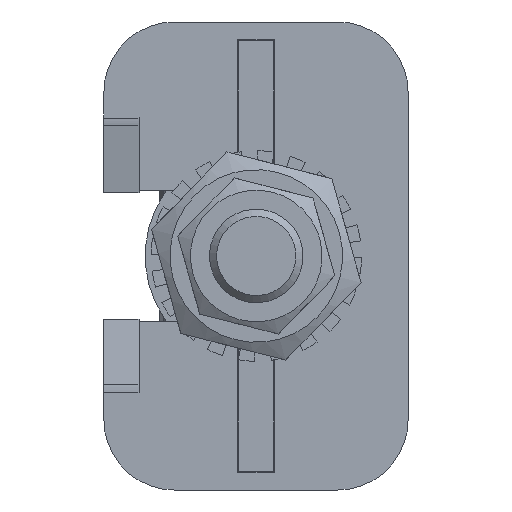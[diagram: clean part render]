
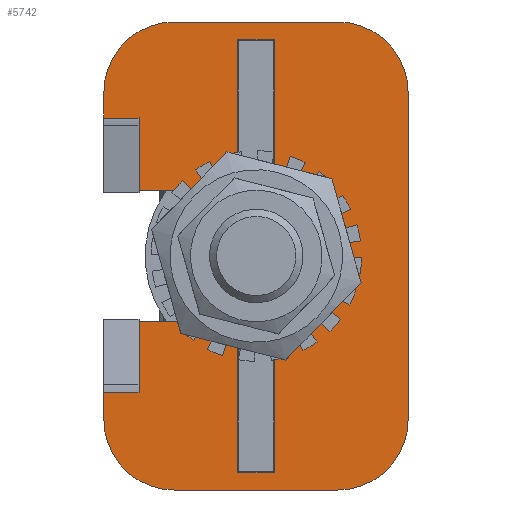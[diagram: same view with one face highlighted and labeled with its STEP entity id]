
A CAD part, left-side view. The second image highlights one B-rep face of the part: STEP entity #5742.
In plain terms, the highlighted planar face has unit normal (-1, 0, 0) as drawn and (0, 0, -1) by its records, which use the part's own axes.
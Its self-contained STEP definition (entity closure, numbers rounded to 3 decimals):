
#174=FACE_BOUND('',#1111,.T.);
#175=FACE_BOUND('',#1112,.T.);
#265=CIRCLE('',#6135,11.25);
#266=CIRCLE('',#6136,12.);
#267=CIRCLE('',#6137,12.);
#268=CIRCLE('',#6138,12.);
#269=CIRCLE('',#6139,12.);
#759=FACE_OUTER_BOUND('',#1110,.T.);
#1110=EDGE_LOOP('',(#4128,#4129,#4130,#4131,#4132,#4133,#4134,#4135,#4136,
#4137,#4138,#4139,#4140,#4141,#4142,#4143,#4144,#4145,#4146,#4147));
#1111=EDGE_LOOP('',(#4148,#4149,#4150,#4151));
#1112=EDGE_LOOP('',(#4152,#4153,#4154,#4155));
#1558=LINE('',#8747,#2044);
#1569=LINE('',#8770,#2055);
#1570=LINE('',#8773,#2056);
#1575=LINE('',#8782,#2061);
#1595=LINE('',#8833,#2081);
#1597=LINE('',#8837,#2083);
#1598=LINE('',#8841,#2084);
#1599=LINE('',#8843,#2085);
#1600=LINE('',#8845,#2086);
#1601=LINE('',#8847,#2087);
#1602=LINE('',#8849,#2088);
#1603=LINE('',#8851,#2089);
#1604=LINE('',#8855,#2090);
#1605=LINE('',#8859,#2091);
#1606=LINE('',#8863,#2092);
#1607=LINE('',#8867,#2093);
#1608=LINE('',#8869,#2094);
#1609=LINE('',#8871,#2095);
#1610=LINE('',#8872,#2096);
#1611=LINE('',#8875,#2097);
#1612=LINE('',#8877,#2098);
#1613=LINE('',#8879,#2099);
#1614=LINE('',#8880,#2100);
#2044=VECTOR('',#6946,6.);
#2055=VECTOR('',#6969,0.1);
#2056=VECTOR('',#6972,0.1);
#2061=VECTOR('',#6979,12.418);
#2081=VECTOR('',#7013,4.432);
#2083=VECTOR('',#7017,19.95);
#2084=VECTOR('',#7020,19.95);
#2085=VECTOR('',#7021,12.1);
#2086=VECTOR('',#7022,0.1);
#2087=VECTOR('',#7023,0.1);
#2088=VECTOR('',#7024,6.);
#2089=VECTOR('',#7025,4.75);
#2090=VECTOR('',#7028,28.);
#2091=VECTOR('',#7031,56.);
#2092=VECTOR('',#7034,28.);
#2093=VECTOR('',#7037,6.2);
#2094=VECTOR('',#7038,21.2);
#2095=VECTOR('',#7039,6.2);
#2096=VECTOR('',#7040,21.2);
#2097=VECTOR('',#7041,6.2);
#2098=VECTOR('',#7042,21.2);
#2099=VECTOR('',#7043,6.2);
#2100=VECTOR('',#7044,21.2);
#2506=VERTEX_POINT('',#8726);
#2509=VERTEX_POINT('',#8734);
#2518=VERTEX_POINT('',#8768);
#2519=VERTEX_POINT('',#8772);
#2522=VERTEX_POINT('',#8780);
#2546=VERTEX_POINT('',#8832);
#2547=VERTEX_POINT('',#8836);
#2548=VERTEX_POINT('',#8838);
#2549=VERTEX_POINT('',#8840);
#2550=VERTEX_POINT('',#8842);
#2551=VERTEX_POINT('',#8844);
#2552=VERTEX_POINT('',#8846);
#2553=VERTEX_POINT('',#8848);
#2554=VERTEX_POINT('',#8850);
#2555=VERTEX_POINT('',#8852);
#2556=VERTEX_POINT('',#8854);
#2557=VERTEX_POINT('',#8856);
#2558=VERTEX_POINT('',#8858);
#2559=VERTEX_POINT('',#8860);
#2560=VERTEX_POINT('',#8862);
#2561=VERTEX_POINT('',#8865);
#2562=VERTEX_POINT('',#8866);
#2563=VERTEX_POINT('',#8868);
#2564=VERTEX_POINT('',#8870);
#2565=VERTEX_POINT('',#8873);
#2566=VERTEX_POINT('',#8874);
#2567=VERTEX_POINT('',#8876);
#2568=VERTEX_POINT('',#8878);
#3118=EDGE_CURVE('',#2509,#2506,#1558,.T.);
#3129=EDGE_CURVE('',#2506,#2518,#1569,.T.);
#3130=EDGE_CURVE('',#2518,#2519,#1570,.T.);
#3135=EDGE_CURVE('',#2522,#2519,#1575,.T.);
#3160=EDGE_CURVE('',#2509,#2546,#1595,.T.);
#3162=EDGE_CURVE('',#2547,#2522,#1597,.T.);
#3163=EDGE_CURVE('',#2548,#2547,#265,.T.);
#3164=EDGE_CURVE('',#2549,#2548,#1598,.T.);
#3165=EDGE_CURVE('',#2550,#2549,#1599,.T.);
#3166=EDGE_CURVE('',#2550,#2551,#1600,.T.);
#3167=EDGE_CURVE('',#2551,#2552,#1601,.T.);
#3168=EDGE_CURVE('',#2552,#2553,#1602,.T.);
#3169=EDGE_CURVE('',#2554,#2553,#1603,.T.);
#3170=EDGE_CURVE('',#2555,#2554,#266,.T.);
#3171=EDGE_CURVE('',#2556,#2555,#1604,.T.);
#3172=EDGE_CURVE('',#2557,#2556,#267,.T.);
#3173=EDGE_CURVE('',#2558,#2557,#1605,.T.);
#3174=EDGE_CURVE('',#2559,#2558,#268,.T.);
#3175=EDGE_CURVE('',#2560,#2559,#1606,.T.);
#3176=EDGE_CURVE('',#2546,#2560,#269,.T.);
#3177=EDGE_CURVE('',#2561,#2562,#1607,.T.);
#3178=EDGE_CURVE('',#2562,#2563,#1608,.T.);
#3179=EDGE_CURVE('',#2563,#2564,#1609,.T.);
#3180=EDGE_CURVE('',#2564,#2561,#1610,.T.);
#3181=EDGE_CURVE('',#2565,#2566,#1611,.T.);
#3182=EDGE_CURVE('',#2566,#2567,#1612,.T.);
#3183=EDGE_CURVE('',#2567,#2568,#1613,.T.);
#3184=EDGE_CURVE('',#2568,#2565,#1614,.T.);
#4128=ORIENTED_EDGE('',*,*,#3135,.F.);
#4129=ORIENTED_EDGE('',*,*,#3162,.F.);
#4130=ORIENTED_EDGE('',*,*,#3163,.F.);
#4131=ORIENTED_EDGE('',*,*,#3164,.F.);
#4132=ORIENTED_EDGE('',*,*,#3165,.F.);
#4133=ORIENTED_EDGE('',*,*,#3166,.T.);
#4134=ORIENTED_EDGE('',*,*,#3167,.T.);
#4135=ORIENTED_EDGE('',*,*,#3168,.T.);
#4136=ORIENTED_EDGE('',*,*,#3169,.F.);
#4137=ORIENTED_EDGE('',*,*,#3170,.F.);
#4138=ORIENTED_EDGE('',*,*,#3171,.F.);
#4139=ORIENTED_EDGE('',*,*,#3172,.F.);
#4140=ORIENTED_EDGE('',*,*,#3173,.F.);
#4141=ORIENTED_EDGE('',*,*,#3174,.F.);
#4142=ORIENTED_EDGE('',*,*,#3175,.F.);
#4143=ORIENTED_EDGE('',*,*,#3176,.F.);
#4144=ORIENTED_EDGE('',*,*,#3160,.F.);
#4145=ORIENTED_EDGE('',*,*,#3118,.T.);
#4146=ORIENTED_EDGE('',*,*,#3129,.T.);
#4147=ORIENTED_EDGE('',*,*,#3130,.T.);
#4148=ORIENTED_EDGE('',*,*,#3177,.T.);
#4149=ORIENTED_EDGE('',*,*,#3178,.T.);
#4150=ORIENTED_EDGE('',*,*,#3179,.T.);
#4151=ORIENTED_EDGE('',*,*,#3180,.T.);
#4152=ORIENTED_EDGE('',*,*,#3181,.T.);
#4153=ORIENTED_EDGE('',*,*,#3182,.T.);
#4154=ORIENTED_EDGE('',*,*,#3183,.T.);
#4155=ORIENTED_EDGE('',*,*,#3184,.T.);
#5547=PLANE('',#6134);
#5742=ADVANCED_FACE('',(#759,#174,#175),#5547,.F.);
#6134=AXIS2_PLACEMENT_3D('',#8835,#7015,#7016);
#6135=AXIS2_PLACEMENT_3D('',#8839,#7018,#7019);
#6136=AXIS2_PLACEMENT_3D('',#8853,#7026,#7027);
#6137=AXIS2_PLACEMENT_3D('',#8857,#7029,#7030);
#6138=AXIS2_PLACEMENT_3D('',#8861,#7032,#7033);
#6139=AXIS2_PLACEMENT_3D('',#8864,#7035,#7036);
#6946=DIRECTION('',(0.,1.,0.));
#6969=DIRECTION('',(1.,0.,0.));
#6972=DIRECTION('',(0.,1.,0.));
#6979=DIRECTION('',(1.,0.,0.));
#7013=DIRECTION('',(1.,0.,0.));
#7015=DIRECTION('center_axis',(0.,0.,1.));
#7016=DIRECTION('ref_axis',(1.,0.,0.));
#7017=DIRECTION('',(0.,-1.,0.));
#7018=DIRECTION('center_axis',(0.,0.,-1.));
#7019=DIRECTION('ref_axis',(-1.,0.,0.));
#7020=DIRECTION('',(0.,1.,0.));
#7021=DIRECTION('',(1.,0.,0.));
#7022=DIRECTION('',(0.,-1.,0.));
#7023=DIRECTION('',(1.,0.,0.));
#7024=DIRECTION('',(0.,-1.,0.));
#7025=DIRECTION('',(1.,0.,0.));
#7026=DIRECTION('center_axis',(0.,0.,1.));
#7027=DIRECTION('ref_axis',(-1.,0.,0.));
#7028=DIRECTION('',(0.,-1.,0.));
#7029=DIRECTION('center_axis',(0.,0.,1.));
#7030=DIRECTION('ref_axis',(0.,1.,0.));
#7031=DIRECTION('',(-1.,0.,0.));
#7032=DIRECTION('center_axis',(0.,0.,1.));
#7033=DIRECTION('ref_axis',(1.,0.,0.));
#7034=DIRECTION('',(0.,1.,0.));
#7035=DIRECTION('center_axis',(0.,0.,1.));
#7036=DIRECTION('ref_axis',(0.,-1.,0.));
#7037=DIRECTION('',(0.,1.,0.));
#7038=DIRECTION('',(-1.,0.,0.));
#7039=DIRECTION('',(0.,-1.,0.));
#7040=DIRECTION('',(1.,0.,0.));
#7041=DIRECTION('',(0.,1.,0.));
#7042=DIRECTION('',(-1.,0.,0.));
#7043=DIRECTION('',(0.,-1.,0.));
#7044=DIRECTION('',(1.,0.,0.));
#8726=CARTESIAN_POINT('',(23.568,-20.,0.));
#8734=CARTESIAN_POINT('',(23.568,-26.,0.));
#8747=CARTESIAN_POINT('',(23.568,-14.149,0.));
#8768=CARTESIAN_POINT('',(23.668,-20.,0.));
#8770=CARTESIAN_POINT('',(11.416,-20.,0.));
#8772=CARTESIAN_POINT('',(23.668,-19.9,0.));
#8773=CARTESIAN_POINT('',(23.668,-11.149,0.));
#8780=CARTESIAN_POINT('',(11.25,-19.9,0.));
#8782=CARTESIAN_POINT('',(11.25,-19.9,0.));
#8832=CARTESIAN_POINT('',(28.,-26.,0.));
#8833=CARTESIAN_POINT('',(-28.,-26.,0.));
#8835=CARTESIAN_POINT('Origin',(0.,-2.297,
0.));
#8836=CARTESIAN_POINT('',(11.25,0.05,0.));
#8837=CARTESIAN_POINT('',(11.25,0.05,0.));
#8838=CARTESIAN_POINT('',(-11.25,0.05,0.));
#8839=CARTESIAN_POINT('Origin',(0.,0.05,
0.));
#8840=CARTESIAN_POINT('',(-11.25,-19.9,0.));
#8841=CARTESIAN_POINT('',(-11.25,-19.9,0.));
#8842=CARTESIAN_POINT('',(-23.35,-19.9,0.));
#8843=CARTESIAN_POINT('',(-23.25,-19.9,0.));
#8844=CARTESIAN_POINT('',(-23.35,-20.,0.));
#8845=CARTESIAN_POINT('',(-23.35,-11.099,0.));
#8846=CARTESIAN_POINT('',(-23.25,-20.,0.));
#8847=CARTESIAN_POINT('',(-11.675,-20.,0.));
#8848=CARTESIAN_POINT('',(-23.25,-26.,0.));
#8849=CARTESIAN_POINT('',(-23.25,-11.149,0.));
#8850=CARTESIAN_POINT('',(-28.,-26.,0.));
#8851=CARTESIAN_POINT('',(-28.,-26.,0.));
#8852=CARTESIAN_POINT('',(-40.,-14.,0.));
#8853=CARTESIAN_POINT('Origin',(-28.,-14.,0.));
#8854=CARTESIAN_POINT('',(-40.,14.,0.));
#8855=CARTESIAN_POINT('',(-40.,14.,0.));
#8856=CARTESIAN_POINT('',(-28.,26.,0.));
#8857=CARTESIAN_POINT('Origin',(-28.,14.,0.));
#8858=CARTESIAN_POINT('',(28.,26.,0.));
#8859=CARTESIAN_POINT('',(28.,26.,0.));
#8860=CARTESIAN_POINT('',(40.,14.,0.));
#8861=CARTESIAN_POINT('Origin',(28.,14.,0.));
#8862=CARTESIAN_POINT('',(40.,-14.,0.));
#8863=CARTESIAN_POINT('',(40.,-14.,0.));
#8864=CARTESIAN_POINT('Origin',(28.,-14.,0.));
#8865=CARTESIAN_POINT('',(-15.8,-3.1,0.));
#8866=CARTESIAN_POINT('',(-15.8,3.1,0.));
#8867=CARTESIAN_POINT('',(-15.8,0.401,0.));
#8868=CARTESIAN_POINT('',(-37.,3.1,0.));
#8869=CARTESIAN_POINT('',(-18.5,3.1,0.));
#8870=CARTESIAN_POINT('',(-37.,-3.1,0.));
#8871=CARTESIAN_POINT('',(-37.,-2.699,0.));
#8872=CARTESIAN_POINT('',(-7.9,-3.1,0.));
#8873=CARTESIAN_POINT('',(37.,-3.1,0.));
#8874=CARTESIAN_POINT('',(37.,3.1,0.));
#8875=CARTESIAN_POINT('',(37.,0.401,0.));
#8876=CARTESIAN_POINT('',(15.8,3.1,0.));
#8877=CARTESIAN_POINT('',(7.9,3.1,0.));
#8878=CARTESIAN_POINT('',(15.8,-3.1,0.));
#8879=CARTESIAN_POINT('',(15.8,-2.699,0.));
#8880=CARTESIAN_POINT('',(18.5,-3.1,0.));
